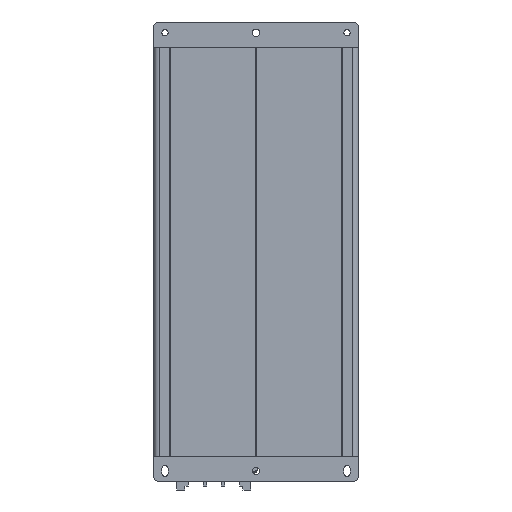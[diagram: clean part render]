
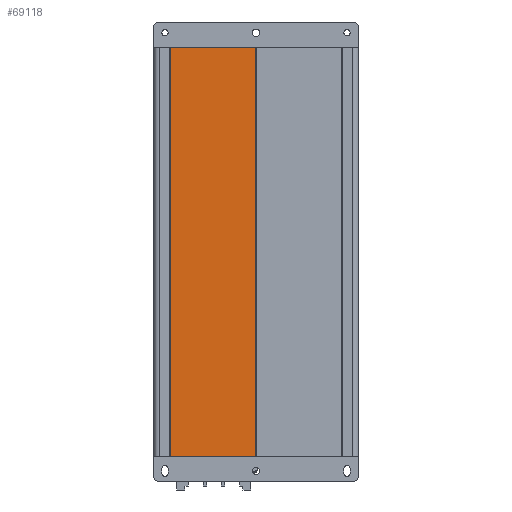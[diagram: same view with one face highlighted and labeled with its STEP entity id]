
A CAD part, front view. The second image highlights one B-rep face of the part: STEP entity #69118.
In plain terms, the highlighted planar face has unit normal (0, -1, 0).
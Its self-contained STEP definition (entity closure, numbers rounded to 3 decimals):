
#1747=PLANE('',#73899);
#5032=LINE('',#105824,#11448);
#5034=LINE('',#105828,#11450);
#5035=LINE('',#105830,#11451);
#5036=LINE('',#105831,#11452);
#11448=VECTOR('',#84236,0.394);
#11450=VECTOR('',#84240,0.394);
#11451=VECTOR('',#84241,0.394);
#11452=VECTOR('',#84242,0.394);
#18266=FACE_OUTER_BOUND('',#22067,.T.);
#22067=EDGE_LOOP('',(#50080,#50081,#50082,#50083));
#30548=VERTEX_POINT('',#105821);
#30549=VERTEX_POINT('',#105823);
#30550=VERTEX_POINT('',#105827);
#30551=VERTEX_POINT('',#105829);
#37969=EDGE_CURVE('',#30548,#30549,#5032,.T.);
#37971=EDGE_CURVE('',#30548,#30550,#5034,.T.);
#37972=EDGE_CURVE('',#30550,#30551,#5035,.T.);
#37973=EDGE_CURVE('',#30549,#30551,#5036,.T.);
#50080=ORIENTED_EDGE('',*,*,#37971,.T.);
#50081=ORIENTED_EDGE('',*,*,#37972,.T.);
#50082=ORIENTED_EDGE('',*,*,#37973,.F.);
#50083=ORIENTED_EDGE('',*,*,#37969,.F.);
#69118=ADVANCED_FACE('',(#18266),#1747,.T.);
#73899=AXIS2_PLACEMENT_3D('',#105826,#84238,#84239);
#84236=DIRECTION('',(0.,0.,1.));
#84238=DIRECTION('center_axis',(0.,-1.,0.));
#84239=DIRECTION('ref_axis',(1.,0.,0.));
#84240=DIRECTION('',(1.,0.,0.));
#84241=DIRECTION('',(0.,0.,1.));
#84242=DIRECTION('',(1.,0.,0.));
#105821=CARTESIAN_POINT('',(-2.901,-1.724,-7.087));
#105823=CARTESIAN_POINT('',(-2.901,-1.724,7.087));
#105824=CARTESIAN_POINT('',(-2.901,-1.724,-7.087));
#105826=CARTESIAN_POINT('Origin',(-2.901,-1.724,-7.087));
#105827=CARTESIAN_POINT('',(0.059,-1.724,-7.087));
#105828=CARTESIAN_POINT('',(-2.901,-1.724,-7.087));
#105829=CARTESIAN_POINT('',(0.059,-1.724,7.087));
#105830=CARTESIAN_POINT('',(0.059,-1.724,-7.087));
#105831=CARTESIAN_POINT('',(-2.901,-1.724,7.087));
